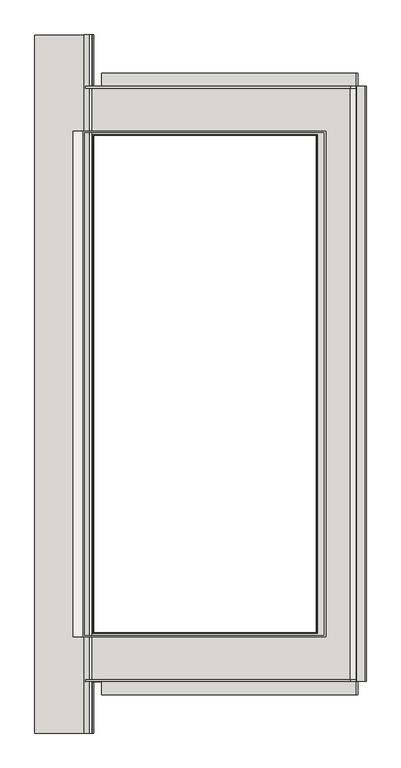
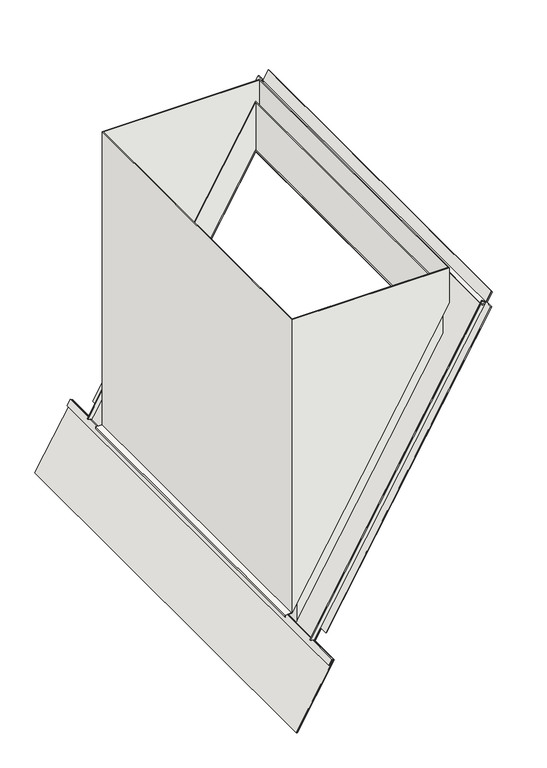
"""IFC4 building model written with IfcOpenShell, lengths in millimetres: covering geometry, MG_BPC_Delta Discovery Air_mountingbox-PA_M&G : mountingbox DDA."""

from ifc_helpers import new_model, si_unit, frame, origin, place, context, project, spatial, polyline, outline, extrude, faceted_brep, source, transform, mapped, element, save


def covering_832741f2(model_context):
    return source(origin(), model_context, "Body", "SolidModel", [
        extrude(outline(polyline([(0.0, 0.0), (0.0, -350.0), (-157.5, -350.0), (-157.5, -410.0), (-117.5, -410.0), (-117.5, -1970.0), (-157.5, -1970.0), (-157.5, -2020.0), (-1977.5, -2020.0), (-1977.5, -1970.0), (-2017.5, -1970.0), (-2017.5, -410.0), (-1977.5, -410.0), (-1977.5, -350.0), (-2135.0, -350.0), (-2135.0, 0.0), (0.0, 0.0)]), holes=[polyline([(-1827.5, -350.0), (-1827.5, -1720.0), (-307.5, -1720.0), (-307.5, -350.0), (-1827.5, -350.0)])]), frame((-175.0, 1067.5, -303.1088913), z_axis=(-0.8660254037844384, 0.0, 0.5000000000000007), x_axis=(0.0, 1.0, 0.0)), (0.0, 0.0, 1.0), 5.0),
        faceted_brep([(0.0, 760.0, 244.0), (0.0, 760.0, 0.0), (684.0, 760.0, 1184.7227524), (684.0, 760.0, 1428.7227524), (0.0, -760.0, 244.0), (0.0, -760.0, 0.0), (684.0, -760.0, 1428.7227524), (684.0, -760.0, 1184.7227524), (685.9866683, 762.0, 1432.1637627), (685.9866683, 762.0, 1188.1637627), (-2.0066659, 762.0, -3.4756472), (-2.0066659, 762.0, 240.5243528), (-2.0066659, -762.0, -3.4756472), (-2.0066659, -762.0, 240.5243528), (685.9866683, -762.0, 1188.1637627), (685.9866683, -762.0, 1432.1637627)], [[[0, 1, 2, 3]], [[1, 0, 4, 5]], [[5, 4, 6, 7]], [[7, 6, 3, 2]], [[8, 9, 10, 11]], [[11, 10, 12, 13]], [[13, 12, 14, 15]], [[9, 8, 15, 14]], [[10, 9, 14, 12], [2, 1, 5, 7]], [[8, 11, 13, 15], [0, 3, 6, 4]]]),
        faceted_brep([(710.9866683, -773.0, 1526.4650329), (710.9866683, -773.0, 1351.4650329), (710.9866683, 773.0, 1351.4650329), (710.9866683, 773.0, 1526.4650329), (-32.0066659, 773.0, 64.5628285), (-32.0066659, 773.0, 1526.4650329), (-32.0066659, -773.0, 64.5628285), (-32.0066659, -773.0, 1526.4650329), (-27.0066659, -768.0, 1526.4650329), (-27.0066659, -768.0, 73.2230826), (-27.0066659, 768.0, 73.2230826), (-27.0066659, 768.0, 1526.4650329), (705.9866683, 768.0, 1342.8047789), (705.9866683, 768.0, 1526.4650329), (705.9866683, -768.0, 1342.8047789), (705.9866683, -768.0, 1526.4650329)], [[[0, 1, 2, 3]], [[3, 2, 4, 5]], [[5, 4, 6, 7]], [[1, 0, 7, 6]], [[8, 9, 10, 11]], [[11, 10, 12, 13]], [[13, 12, 14, 15]], [[9, 8, 15, 14]], [[2, 1, 6, 4], [10, 9, 14, 12]], [[0, 3, 5, 7], [8, 11, 13, 15]]]),
        faceted_brep([(-12.9903811, -1067.5, 7.5), (-27.9903811, -1067.5, -18.4807621), (-25.3923048, -1067.5, -19.9807621), (-11.8923048, -1067.5, 3.4019238), (-5.830127, -1067.5, -0.0980762), (-4.330127, -1067.5, 2.5), (-12.9903811, 1067.5, 7.5), (-4.330127, 1067.5, 2.5), (-5.830127, 1067.5, -0.0980762), (-11.8923048, 1067.5, 3.4019238), (-25.3923048, 1067.5, -19.9807621), (-27.9903811, 1067.5, -18.4807621), (-12.9903811, -910.0, 7.5), (-27.9903811, -910.0, -18.4807621), (-25.3923048, -910.0, -19.9807621), (-11.8923048, -910.0, 3.4019238), (-5.830127, -910.0, -0.0980762), (-4.330127, -910.0, 2.5)], [[[0, 1, 2, 3, 4, 5]], [[6, 7, 8, 9, 10, 11]], [[1, 0, 12, 6, 11, 13]], [[2, 1, 13, 11, 10, 14]], [[3, 2, 14, 10, 9, 15]], [[4, 3, 15, 9, 8, 16]], [[5, 4, 16, 8, 7, 17]], [[0, 5, 17, 7, 6, 12]]]),
        extrude(outline(polyline([(65.5628285, -62.0066659), (55.5628285, -62.0066659), (55.5628285, -61.0066659), (64.5628285, -61.0066659), (64.5628285, -32.0066659), (65.5628285, -32.0066659), (65.5628285, -62.0066659)])), frame((0.0, -773.0, 0.0), z_axis=(0.0, 1.0, 0.0), x_axis=(0.0, 0.0, 1.0)), (0.0, 0.0, 1.0), 1546.0),
        extrude(outline(polyline([(0.0, -20.0), (0.0, 0.0), (1820.0, 0.0), (1820.0, -20.0), (0.0, -20.0)])), frame((787.6454517, -910.0, 1395.4551441), z_axis=(-0.25881904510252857, 0.0, 0.9659258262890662), x_axis=(0.0, 1.0, 0.0)), (0.0, 0.0, 1.0), 5.0),
        extrude(outline(polyline([(-40.0, 20.0), (-40.0, 0.0), (-45.0, 0.0), (-45.0, 20.0), (-40.0, 20.0)])), frame((-5.830127, 950.0, -0.0980762), z_axis=(0.5000000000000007, 0.0, 0.8660254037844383), x_axis=(0.0, 1.0, 0.0)), (0.0, 0.0, 1.0), 1623.0),
        extrude(outline(polyline([(-40.0, -20.0), (-45.0, -20.0), (-45.0, 0.0), (-40.0, 0.0), (-40.0, -20.0)])), frame((-5.830127, -950.0, -0.0980762), z_axis=(0.5000000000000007, 0.0, 0.8660254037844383), x_axis=(0.0, -1.0, 0.0)), (0.0, 0.0, 1.0), 1623.0),
    ])


if __name__ == "__main__":
    model = new_model("IFC4")
    model_context = context("Model", 3, world=origin())
    ifc_project = project(units=[si_unit("LENGTHUNIT", "METRE", prefix="MILLI")], contexts=[model_context])
    site = spatial("IfcSite", under=ifc_project)
    building = spatial("IfcBuilding", under=site)
    placement = place(None, origin())
    covering_shape = covering_832741f2(model_context)
    element("IfcCovering", 1, ObjectType="MG_BPC_Delta Discovery Air_mountingbox-PA_M&G : mountingbox DDA", at=placement, inside=building, context=model_context, shape_type="MappedRepresentation", body=[
        mapped(covering_shape, transform((0.0, 0.0, 0.0), x_axis=(1.0, 0.0, 0.0), y_axis=(0.0, 1.0, 0.0), z_axis=(0.0, 0.0, 1.0))),
    ])
    save(model, "model.ifc")
